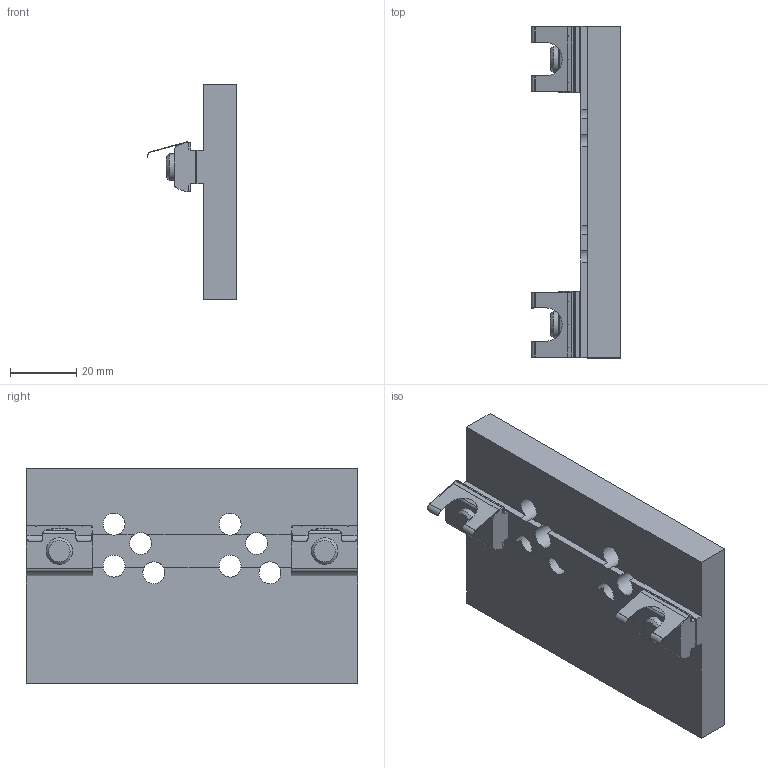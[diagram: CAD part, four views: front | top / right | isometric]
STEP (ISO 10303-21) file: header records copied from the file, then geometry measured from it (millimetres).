
FILE_DESCRIPTION(/* description */ ('Stopper-Befestigung rechts'),/* implementation_level */ '2;1');
FILE_NAME(/* name */ 'C:\Marketing\01_Versamove-SPU_STEP-Dateien-Homepage\Versamove plus\Stopper\Stopper-Befestigungssatz rechts.stp',/* time_stamp */ '2017-02-01T14:49:03+01:00',/* author */ ('herbert.engels'),/* organization */ (''),/* preprocessor_version */ 'ST-DEVELOPER v15.6',/* originating_system */ 'Autodesk Inventor 2015',/* authorisation */ '');
FILE_SCHEMA (('CONFIG_CONTROL_DESIGN'));
Length unit declared in the file: millimetre
Products named in the file (1): Stopper-Befestigungssatz rechts
Bounding box: 27 x 100 x 65 mm (x, y, z)
Volume: 66546.8 mm3; surface area: 22518.6 mm2
Topology: 5 solids, 5 shells, 200 faces, 532 edges, 348 vertices
Faces by surface type: plane 128, cylinder 62, cone 6, torus 4
Full cylindrical faces by diameter (mm): 0.2 x6, 6.647 x8, 8 x4, 9 x2, 13 x2, 15 x2
Entity records: 6357 total; most frequent: CARTESIAN_POINT 1263, DIRECTION 980, ORIENTED_EDGE 968, EDGE_CURVE 482, VERTEX_POINT 332, LINE 330, VECTOR 330, AXIS2_PLACEMENT_3D 325
